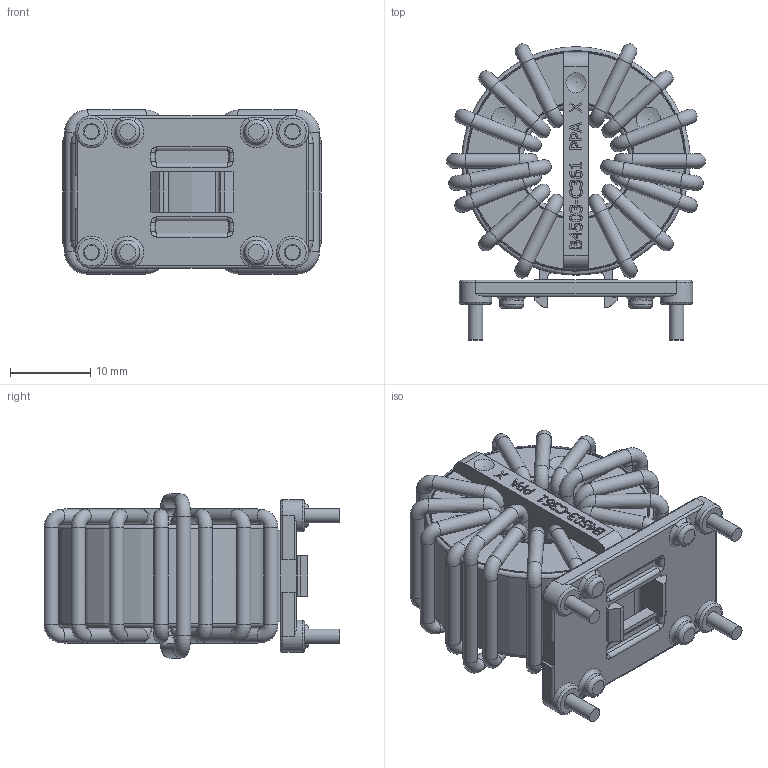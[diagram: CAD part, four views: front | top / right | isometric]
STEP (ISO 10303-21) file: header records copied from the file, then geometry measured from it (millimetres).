
FILE_DESCRIPTION(/* description */ (''),/* implementation_level */ '2;1');
FILE_NAME(/* name */ 'G:\KB-FTKon\CAD\Inventor\Bauelementnummer\6127-X022\6127-X022_Shrinkwrap_1.stp',/* time_stamp */ '2019-04-30T11:21:14+02:00',/* author */ ('de041100'),/* organization */ (''),/* preprocessor_version */ 'ST-DEVELOPER v17.2',/* originating_system */ 'Autodesk Inventor 2019',/* authorisation */ '');
FILE_SCHEMA (('AUTOMOTIVE_DESIGN { 1 0 10303 214 3 1 1 }'));
Length unit declared in the file: millimetre
Products named in the file (1): 6127-X022_Shrinkwrap_1
Bounding box: 32.2 x 36.81 x 20.4 mm (x, y, z)
Volume: 9887.2 mm3; surface area: 9901.3 mm2
Topology: 19 solids, 19 shells, 1265 faces, 3601 edges, 2396 vertices
Faces by surface type: plane 549, bspline 393, cylinder 189, torus 124, sphere 6, cone 4
Full cylindrical faces by diameter (mm): 1.8 x66, 2 x4, 3 x4, 4 x4, 13.2 x1, 14.4 x1, 27.2 x1, 28.4 x1
Entity records: 46042 total; most frequent: CARTESIAN_POINT 13783, ORIENTED_EDGE 7192, DIRECTION 5248, EDGE_CURVE 3596, VERTEX_POINT 2396, LINE 1890, VECTOR 1890, AXIS2_PLACEMENT_3D 1679
